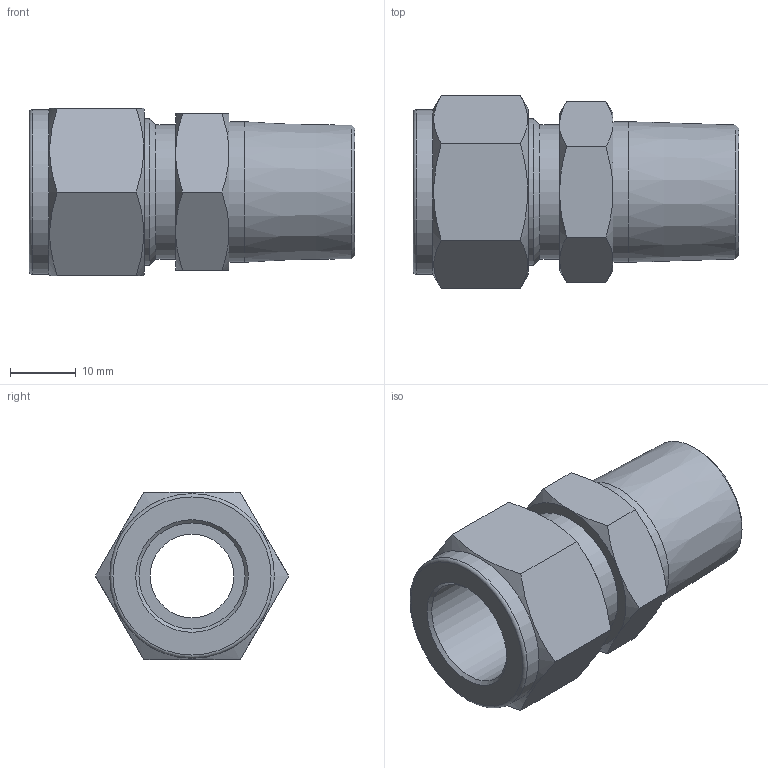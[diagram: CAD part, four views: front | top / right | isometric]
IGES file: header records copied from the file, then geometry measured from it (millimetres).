
Global section: file name: No Iges File Name specified; native system: Autodesk Inventor 2012; preprocessor: AutoDesk Inventor Iges Exporter R2012; author: 硅己绕,, ; organization: 11; date: 20150603.093210; units: millimetre
Bounding box: 49.43 x 29.33 x 25.4 mm (x, y, z)
Volume: 13440.6 mm3; surface area: 6926.5 mm2
Topology: 1 solids, 1 shells, 44 faces, 92 edges, 54 vertices
Faces by surface type: plane 18, cone 17, cylinder 4, revolution 4, torus 1
Full cylindrical faces by diameter (mm): 20.4 x1, 21.34 x1, 22.22 x1, 25 x1
